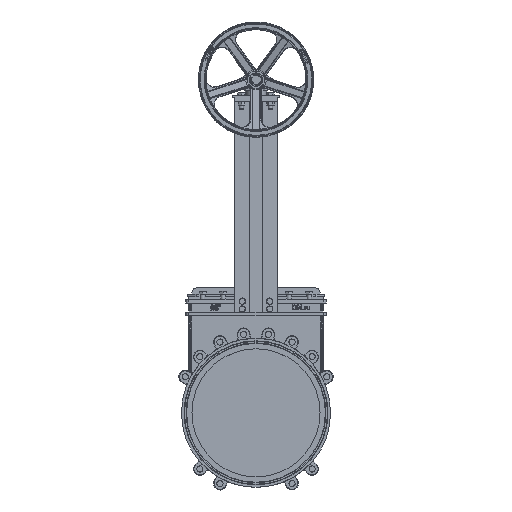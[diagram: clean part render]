
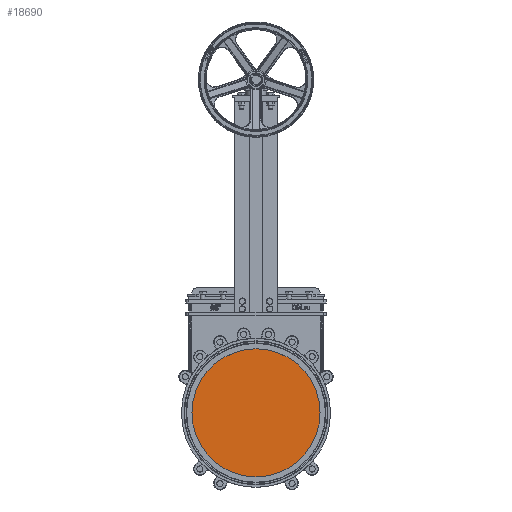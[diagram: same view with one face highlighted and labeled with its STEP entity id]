
A CAD part, top view. The second image highlights one B-rep face of the part: STEP entity #18690.
In plain terms, the highlighted planar face has unit normal (0, 0, 1).
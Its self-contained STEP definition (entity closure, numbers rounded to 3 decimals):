
#18690=ADVANCED_FACE('',(#42541),#42543,.T.);
#42541=FACE_BOUND('',#42542,.T.);
#42542=EDGE_LOOP('',(#53138));
#42543=PLANE('',#42544);
#42544=AXIS2_PLACEMENT_3D('',#42545,#42546,#42547);
#42545=CARTESIAN_POINT('',(0.,0.,5.));
#42546=DIRECTION('',(0.,0.,1.));
#42547=DIRECTION('',(1.,0.,0.));
#53138=ORIENTED_EDGE('',*,*,#58208,.T.);
#58208=EDGE_CURVE('',#66506,#66506,#66507,.F.);
#66506=VERTEX_POINT('',#122386);
#66507=CIRCLE('',#122387,250.);
#122386=CARTESIAN_POINT('',(0.,250.,5.));
#122387=AXIS2_PLACEMENT_3D('',#122388,#122389,#122390);
#122388=CARTESIAN_POINT('',(0.,0.,5.));
#122389=DIRECTION('',(0.,0.,-1.));
#122390=DIRECTION('',(0.,1.,0.));
